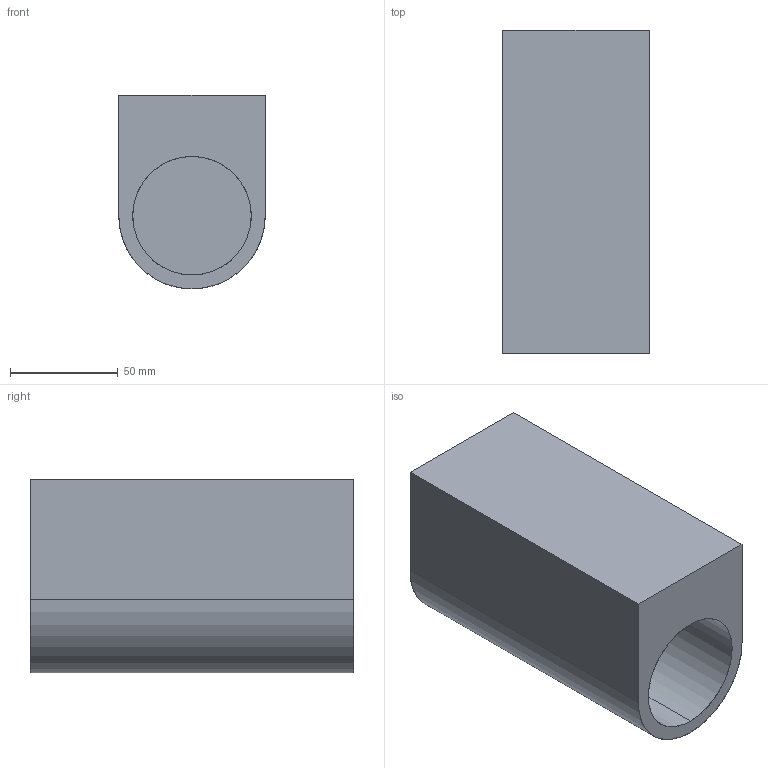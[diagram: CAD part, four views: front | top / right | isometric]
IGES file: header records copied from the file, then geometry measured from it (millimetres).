
Start section: SolidWorks IGES file using analytic representation for surfaces
Global section: file name: C:\Users\danielet\Desktop\3D CARLOS\BOJ-A201520-3D\BOJ-A201520-3D.IGS; native system: SolidWorks 2018; preprocessor: SolidWorks 2018; author: danielet; date: 220203.133446; units: millimetre
Bounding box: 68 x 150 x 90 mm (x, y, z)
Surface area: 78460.1 mm2 (no closed solid volume)
Topology: 0 solids, 0 shells, 13 faces, 362 edges, 362 vertices
Faces by surface type: bspline 7, revolution 6
